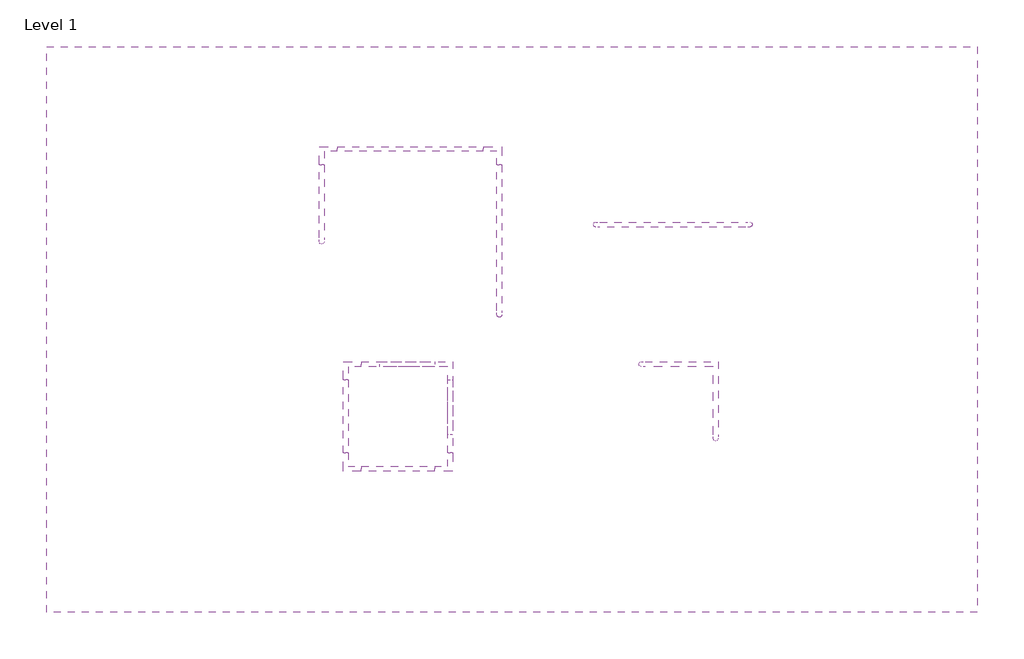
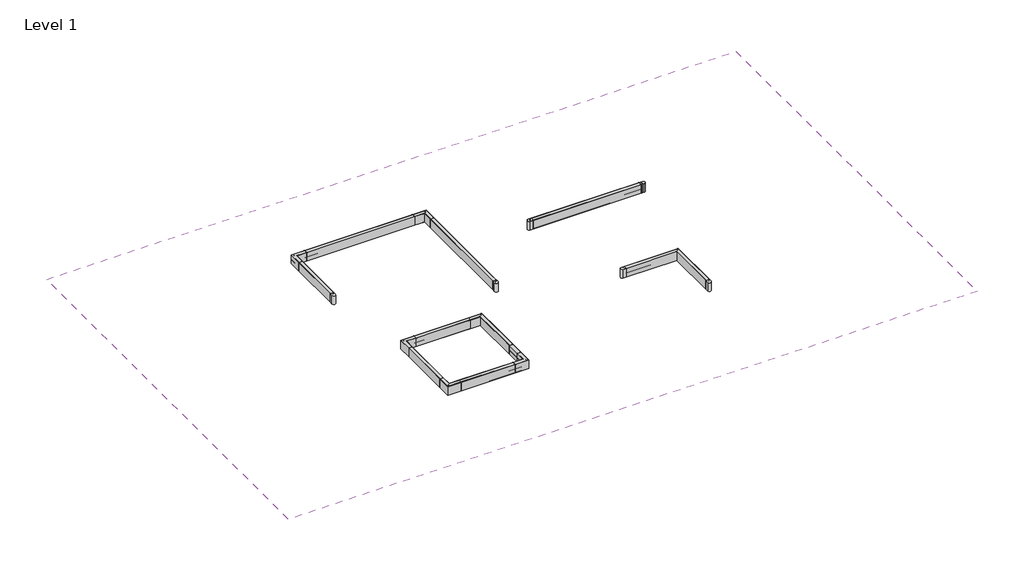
# One storey: 15 light fixtures, 1 covering.
"""IFC4 building model written with IfcOpenShell, lengths in millimetres."""

import ifcopenshell
import ifcopenshell.guid

model = None  # the IFC model being written
_history = None  # IfcOwnerHistory: only IFC2X3 demands one
_inside = {}  # id of a spatial element -> (the spatial element, [elements in it])
_under = {}  # id of a project, library or spatial element -> (it, [spatial elements below it])
_declared = {}  # id of a project -> (the project, [libraries it declares])
_typed = {}  # id of a type object -> (the type object, [elements of that type])
_made_of = {}  # id of a material, layer set ... -> (it, [elements and type objects made of it])


def new_model(schema):
    """Start an empty IFC model of exactly this schema.

    Asked for "IFC4X3", IfcOpenShell would pick the latest addendum, in which some entities
    have other attributes; the version numbers below select the first issue.
    IFC2X3 requires an IfcOwnerHistory on every rooted entity: one is made here for all.
    """
    global model, _history
    if schema == "IFC4X3":
        model = ifcopenshell.file(schema_version=(4, 3, 0, 0))
    else:
        model = ifcopenshell.file(schema=schema)
    _inside.clear()
    _under.clear()
    _declared.clear()
    _typed.clear()
    _made_of.clear()
    _history = None
    if model.schema == "IFC2X3":
        org = make("IfcOrganization", Name="unknown")
        user = make(
            "IfcPersonAndOrganization",
            ThePerson=make("IfcPerson", FamilyName="unknown"),
            TheOrganization=org,
        )
        app = make(
            "IfcApplication",
            ApplicationDeveloper=org,
            Version="unknown",
            ApplicationFullName="unknown",
            ApplicationIdentifier="unknown",
        )
        _history = make(
            "IfcOwnerHistory",
            OwningUser=user,
            OwningApplication=app,
            ChangeAction="ADDED",
            CreationDate=0,
        )
    return model


def make(cls, **values):
    """One entity of the class cls with the attributes given. An attribute that is None is left unset."""
    return model.create_entity(
        cls, **{name: value for name, value in values.items() if value is not None}
    )


def rooted(cls, **values):
    """An entity with a GlobalId (a new one), such as an element, a storey or a relation."""
    return make(cls, GlobalId=ifcopenshell.guid.new(), OwnerHistory=_history, **values)


def si_unit(unit_type, name, prefix=None):
    """IfcSIUnit, for example si_unit("LENGTHUNIT", "METRE", prefix="MILLI")."""
    return make("IfcSIUnit", UnitType=unit_type, Prefix=prefix, Name=name)


def assignment(units):
    """IfcUnitAssignment: the units of a project."""
    return None if units is None else make("IfcUnitAssignment", Units=units)


def point(xyz):
    """IfcCartesianPoint."""
    return None if xyz is None else make("IfcCartesianPoint", Coordinates=xyz)


def direction(xyz):
    """IfcDirection."""
    return None if xyz is None else make("IfcDirection", DirectionRatios=xyz)


def frame(location, z_axis=None, x_axis=None):
    """IfcAxis2Placement3D, a coordinate frame: its origin and axes. An axis left out is left unset."""
    return make(
        "IfcAxis2Placement3D",
        Location=point(location),
        Axis=direction(z_axis),
        RefDirection=direction(x_axis),
    )


def frame_2d(location, x_axis=None):
    """IfcAxis2Placement2D, a coordinate frame in the plane: its origin and x axis."""
    return make(
        "IfcAxis2Placement2D", Location=point(location), RefDirection=direction(x_axis)
    )


def origin():
    """The frame at (0, 0, 0) with its axes left unset."""
    return frame((0.0, 0.0, 0.0))


def origin_with_axes():
    """The frame at (0, 0, 0) with the z axis (0, 0, 1) and the x axis (1, 0, 0) written out."""
    return frame((0.0, 0.0, 0.0), z_axis=(0.0, 0.0, 1.0), x_axis=(1.0, 0.0, 0.0))


def place(relative_to, where):
    """IfcLocalPlacement: puts the frame where relative to a parent placement (None: the world)."""
    return make(
        "IfcLocalPlacement", PlacementRelTo=relative_to, RelativePlacement=where
    )


def context(
    kind, dimensions, precision=None, world=None, true_north=None, identifier=None
):
    """IfcGeometricRepresentationContext, for example the 3D "Model" context."""
    return make(
        "IfcGeometricRepresentationContext",
        ContextIdentifier=identifier,
        ContextType=kind,
        CoordinateSpaceDimension=dimensions,
        Precision=precision,
        WorldCoordinateSystem=world,
        TrueNorth=true_north,
    )


def project(units=None, contexts=None):
    """IfcProject with its units and contexts."""
    return rooted(
        "IfcProject",
        Name="project",
        RepresentationContexts=contexts,
        UnitsInContext=assignment(units),
    )


def spatial(cls, under=None, at=None, **own):
    """A site, building, storey or space (cls), placed at a placement, below another one or the project."""
    s = rooted(cls, ObjectPlacement=at, **own)
    if under is not None:
        _under.setdefault(under.id(), (under, []))[1].append(s)
    return s


def polyline(points):
    """IfcPolyline through the points."""
    return make("IfcPolyline", Points=[point(p) for p in points])


def circle_curve(where, radius):
    """IfcCircle in the frame where."""
    return make("IfcCircle", Position=where, Radius=radius)


def trimmed(basis, trim1, trim2, sense, master):
    """IfcTrimmedCurve: the piece of a basis curve between two trims."""
    return make(
        "IfcTrimmedCurve",
        BasisCurve=basis,
        Trim1=trim1,
        Trim2=trim2,
        SenseAgreement=sense,
        MasterRepresentation=master,
    )


def segment(curve, same_sense, transition):
    """IfcCompositeCurveSegment."""
    return make(
        "IfcCompositeCurveSegment",
        Transition=transition,
        SameSense=same_sense,
        ParentCurve=curve,
    )


def composite_curve(segments, self_intersect=None):
    """IfcCompositeCurve: segments joined end to end."""
    return make("IfcCompositeCurve", Segments=segments, SelfIntersect=self_intersect)


def outline(outer, holes=None, kind="AREA"):
    """IfcArbitraryClosedProfileDef: a profile drawn as a closed curve; with holes, ...WithVoids."""
    if holes is None:
        return make("IfcArbitraryClosedProfileDef", ProfileType=kind, OuterCurve=outer)
    return make(
        "IfcArbitraryProfileDefWithVoids",
        ProfileType=kind,
        OuterCurve=outer,
        InnerCurves=holes,
    )


def extrude(swept, where, along, depth):
    """IfcExtrudedAreaSolid: the profile swept, set in the frame where, extruded along a direction by depth."""
    return make(
        "IfcExtrudedAreaSolid",
        SweptArea=swept,
        Position=where,
        ExtrudedDirection=direction(along),
        Depth=depth,
    )


def shape(context_of_items, identifier, shape_type, items):
    """IfcShapeRepresentation: the items that make up one representation, for example the "Body"."""
    return make(
        "IfcShapeRepresentation",
        ContextOfItems=context_of_items,
        RepresentationIdentifier=identifier,
        RepresentationType=shape_type,
        Items=items,
    )


def source(mapping_origin, context_of_items, identifier, shape_type, items):
    """IfcRepresentationMap: a shape defined once, which mapped items show again and again."""
    return make(
        "IfcRepresentationMap",
        MappingOrigin=mapping_origin,
        MappedRepresentation=shape(context_of_items, identifier, shape_type, items),
    )


def transform(
    local_origin,
    x_axis=None,
    y_axis=None,
    z_axis=None,
    scale=None,
    scale2=None,
    scale3=None,
    uniform=True,
):
    """IfcCartesianTransformationOperator3D, or its non-uniform kind. x_axis, y_axis, z_axis: its Axis1, 2, 3."""
    if uniform:
        return make(
            "IfcCartesianTransformationOperator3D",
            Axis1=direction(x_axis),
            Axis2=direction(y_axis),
            LocalOrigin=point(local_origin),
            Scale=scale,
            Axis3=direction(z_axis),
        )
    return make(
        "IfcCartesianTransformationOperator3DnonUniform",
        Axis1=direction(x_axis),
        Axis2=direction(y_axis),
        LocalOrigin=point(local_origin),
        Scale=scale,
        Axis3=direction(z_axis),
        Scale2=scale2,
        Scale3=scale3,
    )


def mapped(mapping_source, mapping_target):
    """IfcMappedItem: shows the shape of a source again, moved by a transform."""
    return make(
        "IfcMappedItem", MappingSource=mapping_source, MappingTarget=mapping_target
    )


def made_of(thing, what):
    """Note that an element or type object is made of a material, layer set ...; save() writes the relation."""
    if what is not None:
        _made_of.setdefault(what.id(), (what, []))[1].append(thing)
    return thing


def element(
    cls,
    number,
    at=None,
    inside=None,
    cuts=None,
    type_object=None,
    material=None,
    context=None,
    identifier="Body",
    shape_type=None,
    held_by="IfcProductDefinitionShape",
    body=None,
    shapes=None,
    **own,
):
    """One element of the class cls, such as IfcWall. Its Tag is "e" and its number.

    at: its placement. inside: the storey or other place that contains it. cuts: it is an
    opening in that element (IfcRelVoidsElement). A single representation is given by context,
    identifier, shape_type and body (its items); several are given by shapes. held_by: the class
    of the entity that holds the representations. save() writes the other relations.
    """
    e = rooted(cls, Tag="e%d" % number, ObjectPlacement=at, **own)
    if body is not None:
        shapes = [shape(context, identifier, shape_type, body)]
    if shapes is not None:
        e.Representation = make(held_by, Representations=shapes)
    if inside is not None:
        _inside.setdefault(inside.id(), (inside, []))[1].append(e)
    if cuts is not None:
        rooted(
            "IfcRelVoidsElement", RelatingBuildingElement=cuts, RelatedOpeningElement=e
        )
    if type_object is not None:
        _typed.setdefault(type_object.id(), (type_object, []))[1].append(e)
    return made_of(e, material)


def aggregate(whole, parts):
    """IfcRelAggregates: a whole, such as a stair, and the parts it consists of."""
    return rooted("IfcRelAggregates", RelatingObject=whole, RelatedObjects=parts)


def save(model, path):
    """Write the relations noted so far, then the file.

    IfcRelAggregates (storeys below a building ...), IfcRelContainedInSpatialStructure (elements
    in a storey), IfcRelDefinesByType, IfcRelAssociatesMaterial and IfcRelDeclares: one each for
    every whole, place, type object, material and project.
    """
    for whole, parts in _under.values():
        aggregate(whole, parts)
    for where, things in _inside.values():
        rooted(
            "IfcRelContainedInSpatialStructure",
            RelatedElements=things,
            RelatingStructure=where,
        )
    for kind, things in _typed.values():
        rooted("IfcRelDefinesByType", RelatedObjects=things, RelatingType=kind)
    for what, things in _made_of.values():
        rooted("IfcRelAssociatesMaterial", RelatedObjects=things, RelatingMaterial=what)
    for by, libraries in _declared.values():
        rooted("IfcRelDeclares", RelatingContext=by, RelatedDefinitions=libraries)
    model.write(path)


def plane_surface(at):
    """IfcPlane: the flat surface through the origin of the frame at, square to its z axis."""
    return make("IfcPlane", Position=at)


def cylinder_surface(at, radius):
    """IfcCylindricalSurface: all points at the distance radius from the z axis of the frame at."""
    return make("IfcCylindricalSurface", Position=at, Radius=radius)


def revolved_surface(curve, axis_point, axis_direction):
    """IfcSurfaceOfRevolution: the curve turned about the line through axis_point along axis_direction."""
    return make(
        "IfcSurfaceOfRevolution",
        SweptCurve=make("IfcArbitraryOpenProfileDef", ProfileType="CURVE", Curve=curve),
        AxisPosition=make("IfcAxis1Placement", Location=point(axis_point), Axis=direction(axis_direction)),
    )


def advanced_brep(points, edges, surfaces, faces):
    """IfcAdvancedBrep: a solid bounded by faces that lie on surfaces and meet in shared edges.

    An edge is (start, end): straight between two places in points (the first is 0);
    or (start, end, curve); or (start, end, curve, False) where it runs against its curve.
    A face is (place in surfaces, loops), or (place, loops, False) where it looks against
    its surface's normal. A loop lists edges by number (the first is 1), with a minus sign
    where the edge is run from its end to its start. The first loop is the outer one.
    """
    corners = [point(p) for p in points]
    vertices = [make("IfcVertexPoint", VertexGeometry=c) for c in corners]
    made = []
    for start, end, *more in edges:
        made.append(
            make(
                "IfcEdgeCurve",
                EdgeStart=vertices[start],
                EdgeEnd=vertices[end],
                EdgeGeometry=more[0] if more else make("IfcPolyline", Points=[corners[start], corners[end]]),
                SameSense=more[1] if len(more) > 1 else True,
            )
        )
    hull = []
    for where, loops, *sense in faces:
        bounds = []
        for j, loop in enumerate(loops):
            ring = [make("IfcOrientedEdge", EdgeElement=made[abs(k) - 1], Orientation=k > 0) for k in loop]
            bounds.append(
                make(
                    "IfcFaceOuterBound" if j == 0 else "IfcFaceBound",
                    Bound=make("IfcEdgeLoop", EdgeList=ring),
                    Orientation=True,
                )
            )
        hull.append(make("IfcAdvancedFace", Bounds=bounds, FaceSurface=surfaces[where], SameSense=sense[0] if sense else True))
    return make("IfcAdvancedBrep", Outer=make("IfcClosedShell", CfsFaces=hull))


def light_fixture_c3b2ef91(model_context):
    return source(origin(), model_context, "Body", "SolidModel", [
        extrude(outline(composite_curve([segment(polyline([(609.6, -20.6375), (609.6, -18.0975)]), True, "CONTINUOUS"), segment(trimmed(circle_curve(frame_2d((609.6, 0.0)), 18.0975), [point((609.6, -18.0975))], [point((609.6, 18.0975))], True, "CARTESIAN"), True, "CONTINUOUS"), segment(polyline([(609.6, 18.0975), (609.6, 20.6375)]), True, "CONTINUOUS"), segment(trimmed(circle_curve(frame_2d((609.6, 0.0)), 20.6375), [point((609.6, 20.6375))], [point((609.6, -20.6375))], False, "CARTESIAN"), True, "CONTINUOUS")], self_intersect=False)), frame((0.0, 0.0, 1.5875), z_axis=(0.0, 0.0, 1.0), x_axis=(1.0, 0.0, 0.0)), (0.0, 0.0, 1.0), 100.0125),
        extrude(outline(composite_curve([segment(polyline([(609.6, -18.0975), (609.6, 18.0975)]), True, "CONTINUOUS"), segment(trimmed(circle_curve(frame_2d((609.6, 0.0)), 18.0975), [point((609.6, 18.0975))], [point((609.6, -18.0975))], False, "CARTESIAN"), True, "CONTINUOUS")], self_intersect=False)), frame((0.0, 0.0, 96.3095588), z_axis=(0.0, 0.0, 1.0), x_axis=(1.0, 0.0, 0.0)), (0.0, 0.0, 1.0), 1.5875),
        advanced_brep(
        [(609.6, 20.6375, 1.5875), (609.6, -20.6375, 1.5875), (609.6, -20.6375, 0.0), (609.6, 20.6375, 0.0), (642.9375, 20.6375, 0.0), (642.9375, -20.6375, 0.0), (609.6, 20.6375, 101.6), (609.6, -20.6375, 101.6), (642.9375, -20.6375, 101.6), (642.9375, 20.6375, 101.6)],
        [
            (0, 1),
            (1, 0, circle_curve(frame((609.6, 0.0, 1.5875), z_axis=(0.0, 0.0, 1.0), x_axis=(1.0, 0.0, 0.0)), 20.6375)),
            (2, 3),
            (3, 4),
            (4, 5, circle_curve(frame((642.9375, 0.0, 0.0), z_axis=(0.0, 0.0, -1.0), x_axis=(1.0, 0.0, 0.0)), 20.6375)),
            (5, 2),
            (0, 3),
            (2, 1),
            (6, 7, circle_curve(frame((609.6, 0.0, 101.6), z_axis=(0.0, 0.0, -1.0), x_axis=(1.0, 0.0, 0.0)), 20.6375)),
            (7, 8),
            (8, 9, circle_curve(frame((642.9375, 0.0, 101.6), z_axis=(0.0, 0.0, 1.0), x_axis=(1.0, 0.0, 0.0)), 20.6375)),
            (9, 6),
            (6, 0),
            (1, 7),
            (5, 8),
            (4, 9),
        ],
        [
            plane_surface(frame((630.2375, 0.0, 1.5875), z_axis=(0.0, 0.0, 1.0), x_axis=(0.0, 1.0, 0.0))),
            plane_surface(frame((630.2375, 0.0, 0.0), z_axis=(0.0, 0.0, -1.0), x_axis=(0.0, -1.0, 0.0))),
            plane_surface(frame((609.6, 20.6375, 1.5875), z_axis=(-1.0, 0.0, 0.0), x_axis=(0.0, 0.0, -1.0))),
            plane_surface(frame((630.2375, 0.0, 101.6), z_axis=(0.0, 0.0, 1.0), x_axis=(0.0, -1.0, 0.0))),
            revolved_surface(polyline([(630.2375000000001, 0.0, 1.5875), (630.2375000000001, 0.0, 101.6)]), (609.6, 0.0, 0.0), (0.0, 0.0, -1.0)),
            plane_surface(frame((609.6, -20.6375, 101.6), z_axis=(0.0, -1.0, 0.0), x_axis=(0.0, 0.0, -1.0))),
            cylinder_surface(frame((642.9375, 0.0, 0.0), z_axis=(0.0, 0.0, 1.0), x_axis=(1.0, 0.0, 0.0)), 20.6375),
            plane_surface(frame((642.9375, 20.6375, 101.6), z_axis=(0.0, 1.0, 0.0), x_axis=(0.0, 0.0, -1.0))),
        ],
        [
            (0, [[1, 2]]),
            (1, [[3, 4, 5, 6]]),
            (2, [[-1, 7, -3, 8]]),
            (3, [[9, 10, 11, 12]]),
            (4, [[-9, 13, -2, 14]]),
            (5, [[-10, -14, -8, -6, 15]]),
            (6, [[-11, -15, -5, 16]]),
            (7, [[-12, -16, -4, -7, -13]]),
        ],
    ),
        extrude(outline(composite_curve([segment(polyline([(-609.6, 20.6375), (-609.6, 18.0975)]), True, "CONTINUOUS"), segment(trimmed(circle_curve(frame_2d((-609.6, 0.0)), 18.0975), [point((-609.6, 18.0975))], [point((-609.6, -18.0975))], True, "CARTESIAN"), True, "CONTINUOUS"), segment(polyline([(-609.6, -18.0975), (-609.6, -20.6375)]), True, "CONTINUOUS"), segment(trimmed(circle_curve(frame_2d((-609.6, 0.0)), 20.6375), [point((-609.6, -20.6375))], [point((-609.6, 20.6375))], False, "CARTESIAN"), True, "CONTINUOUS")], self_intersect=False)), frame((0.0, 0.0, 1.5875), z_axis=(0.0, 0.0, 1.0), x_axis=(1.0, 0.0, 0.0)), (0.0, 0.0, 1.0), 100.0125),
        extrude(outline(composite_curve([segment(polyline([(-609.6, 18.0975), (-609.6, -18.0975)]), True, "CONTINUOUS"), segment(trimmed(circle_curve(frame_2d((-609.6, 0.0)), 18.0975), [point((-609.6, -18.0975))], [point((-609.6, 18.0975))], False, "CARTESIAN"), True, "CONTINUOUS")], self_intersect=False)), frame((0.0, 0.0, 96.3095588), z_axis=(0.0, 0.0, 1.0), x_axis=(1.0, 0.0, 0.0)), (0.0, 0.0, 1.0), 1.5875),
        advanced_brep(
        [(-609.6, -20.6375, 1.5875), (-609.6, 20.6375, 1.5875), (-609.6, 20.6375, 0.0), (-609.6, -20.6375, 0.0), (-642.9375, -20.6375, 0.0), (-642.9375, 20.6375, 0.0), (-609.6, -20.6375, 101.6), (-609.6, 20.6375, 101.6), (-642.9375, 20.6375, 101.6), (-642.9375, -20.6375, 101.6)],
        [
            (0, 1),
            (1, 0, circle_curve(frame((-609.6, 0.0, 1.5875), z_axis=(0.0, 0.0, 1.0), x_axis=(-1.0, 0.0, 0.0)), 20.6375)),
            (2, 3),
            (3, 4),
            (4, 5, circle_curve(frame((-642.9375, 0.0, 0.0), z_axis=(0.0, 0.0, -1.0), x_axis=(-1.0, 0.0, 0.0)), 20.6375)),
            (5, 2),
            (0, 3),
            (2, 1),
            (6, 7, circle_curve(frame((-609.6, 0.0, 101.6), z_axis=(0.0, 0.0, -1.0), x_axis=(-1.0, 0.0, 0.0)), 20.6375)),
            (7, 8),
            (8, 9, circle_curve(frame((-642.9375, 0.0, 101.6), z_axis=(0.0, 0.0, 1.0), x_axis=(-1.0, 0.0, 0.0)), 20.6375)),
            (9, 6),
            (6, 0),
            (1, 7),
            (5, 8),
            (4, 9),
        ],
        [
            plane_surface(frame((-630.2375, 0.0, 1.5875), z_axis=(0.0, 0.0, 1.0), x_axis=(0.0, -1.0, 0.0))),
            plane_surface(frame((-630.2375, 0.0, 0.0), z_axis=(0.0, 0.0, -1.0), x_axis=(0.0, 1.0, 0.0))),
            plane_surface(frame((-609.6, -20.6375, 1.5875), z_axis=(1.0, 0.0, 0.0), x_axis=(0.0, 0.0, -1.0))),
            plane_surface(frame((-630.2375, 0.0, 101.6), z_axis=(0.0, 0.0, 1.0), x_axis=(0.0, 1.0, 0.0))),
            revolved_surface(polyline([(-630.2375000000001, 0.0, 1.5875), (-630.2375000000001, 0.0, 101.6)]), (-609.6, 0.0, 0.0), (0.0, 0.0, -1.0)),
            plane_surface(frame((-609.6, 20.6375, 101.6), z_axis=(0.0, 1.0, 0.0), x_axis=(0.0, 0.0, -1.0))),
            cylinder_surface(frame((-642.9375, 0.0, 0.0), z_axis=(0.0, 0.0, 1.0), x_axis=(-1.0, 0.0, 0.0)), 20.6375),
            plane_surface(frame((-642.9375, -20.6375, 101.6), z_axis=(0.0, -1.0, 0.0), x_axis=(0.0, 0.0, -1.0))),
        ],
        [
            (0, [[1, 2]]),
            (1, [[3, 4, 5, 6]]),
            (2, [[-1, 7, -3, 8]]),
            (3, [[9, 10, 11, 12]]),
            (4, [[-9, 13, -2, 14]]),
            (5, [[-10, -14, -8, -6, 15]]),
            (6, [[-11, -15, -5, 16]]),
            (7, [[-12, -16, -4, -7, -13]]),
        ],
    ),
        extrude(outline(polyline([(609.6, 18.0975), (609.6, -18.0975), (-609.6, -18.0975), (-609.6, 18.0975), (609.6, 18.0975)])), frame((0.0, 0.0, 96.3095588), z_axis=(0.0, 0.0, 1.0), x_axis=(1.0, 0.0, 0.0)), (0.0, 0.0, 1.0), 1.5875),
        extrude(outline(polyline([(609.6, 18.0975), (609.6, -18.0975), (-609.6, -18.0975), (-609.6, 18.0975), (609.6, 18.0975)])), frame((0.0, 0.0, 53.687913), z_axis=(0.0, 0.0, 1.0), x_axis=(1.0, 0.0, 0.0)), (0.0, 0.0, 1.0), 1.5875),
        extrude(outline(polyline([(609.6, 18.0975), (609.6, -18.0975), (-609.6, -18.0975), (-609.6, 18.0975), (609.6, 18.0975)])), origin_with_axes(), (0.0, 0.0, 1.0), 1.5875),
        extrude(outline(polyline([(609.6, 20.6375), (609.6, 18.0975), (-609.6, 18.0975), (-609.6, 20.6375), (609.6, 20.6375)])), origin_with_axes(), (0.0, 0.0, 1.0), 101.6),
        extrude(outline(polyline([(609.6, -18.0975), (609.6, -20.6375), (-609.6, -20.6375), (-609.6, -18.0975), (609.6, -18.0975)])), origin_with_axes(), (0.0, 0.0, 1.0), 101.6),
    ])


def light_fixture_2741b592(model_context):
    return source(origin(), model_context, "Body", "SolidModel", [
        extrude(outline(composite_curve([segment(polyline([(304.8, -20.6375), (304.8, -18.0975)]), True, "CONTINUOUS"), segment(trimmed(circle_curve(frame_2d((304.8, 0.0)), 18.0975), [point((304.8, -18.0975))], [point((304.8, 18.0975))], True, "CARTESIAN"), True, "CONTINUOUS"), segment(polyline([(304.8, 18.0975), (304.8, 20.6375)]), True, "CONTINUOUS"), segment(trimmed(circle_curve(frame_2d((304.8, 0.0)), 20.6375), [point((304.8, 20.6375))], [point((304.8, -20.6375))], False, "CARTESIAN"), True, "CONTINUOUS")], self_intersect=False)), frame((0.0, 0.0, 1.5875), z_axis=(0.0, 0.0, 1.0), x_axis=(1.0, 0.0, 0.0)), (0.0, 0.0, 1.0), 100.0125),
        extrude(outline(composite_curve([segment(polyline([(304.8, -18.0975), (304.8, 18.0975)]), True, "CONTINUOUS"), segment(trimmed(circle_curve(frame_2d((304.8, 0.0)), 18.0975), [point((304.8, 18.0975))], [point((304.8, -18.0975))], False, "CARTESIAN"), True, "CONTINUOUS")], self_intersect=False)), frame((0.0, 0.0, 96.3095588), z_axis=(0.0, 0.0, 1.0), x_axis=(1.0, 0.0, 0.0)), (0.0, 0.0, 1.0), 1.5875),
        advanced_brep(
        [(304.8, 20.6375, 1.5875), (304.8, -20.6375, 1.5875), (304.8, -20.6375, 0.0), (304.8, 20.6375, 0.0), (338.1375, 20.6375, 0.0), (338.1375, -20.6375, 0.0), (304.8, 20.6375, 101.6), (304.8, -20.6375, 101.6), (338.1375, -20.6375, 101.6), (338.1375, 20.6375, 101.6)],
        [
            (0, 1),
            (1, 0, circle_curve(frame((304.8, 0.0, 1.5875), z_axis=(0.0, 0.0, 1.0), x_axis=(1.0, 0.0, 0.0)), 20.6375)),
            (2, 3),
            (3, 4),
            (4, 5, circle_curve(frame((338.1375, 0.0, 0.0), z_axis=(0.0, 0.0, -1.0), x_axis=(1.0, 0.0, 0.0)), 20.6375)),
            (5, 2),
            (0, 3),
            (2, 1),
            (6, 7, circle_curve(frame((304.8, 0.0, 101.6), z_axis=(0.0, 0.0, -1.0), x_axis=(1.0, 0.0, 0.0)), 20.6375)),
            (7, 8),
            (8, 9, circle_curve(frame((338.1375, 0.0, 101.6), z_axis=(0.0, 0.0, 1.0), x_axis=(1.0, 0.0, 0.0)), 20.6375)),
            (9, 6),
            (6, 0),
            (1, 7),
            (5, 8),
            (4, 9),
        ],
        [
            plane_surface(frame((325.4375, 0.0, 1.5875), z_axis=(0.0, 0.0, 1.0), x_axis=(0.0, 1.0, 0.0))),
            plane_surface(frame((325.4375, 0.0, 0.0), z_axis=(0.0, 0.0, -1.0), x_axis=(0.0, -1.0, 0.0))),
            plane_surface(frame((304.8, 20.6375, 1.5875), z_axis=(-1.0, 0.0, 0.0), x_axis=(0.0, 0.0, -1.0))),
            plane_surface(frame((325.4375, 0.0, 101.6), z_axis=(0.0, 0.0, 1.0), x_axis=(0.0, -1.0, 0.0))),
            revolved_surface(polyline([(325.4375, 0.0, 1.5875), (325.4375, 0.0, 101.6)]), (304.8, 0.0, 0.0), (0.0, 0.0, -1.0)),
            plane_surface(frame((304.8, -20.6375, 101.6), z_axis=(0.0, -1.0, 0.0), x_axis=(0.0, 0.0, -1.0))),
            cylinder_surface(frame((338.1375, 0.0, 0.0), z_axis=(0.0, 0.0, 1.0), x_axis=(1.0, 0.0, 0.0)), 20.6375),
            plane_surface(frame((338.1375, 20.6375, 101.6), z_axis=(0.0, 1.0, 0.0), x_axis=(0.0, 0.0, -1.0))),
        ],
        [
            (0, [[1, 2]]),
            (1, [[3, 4, 5, 6]]),
            (2, [[-1, 7, -3, 8]]),
            (3, [[9, 10, 11, 12]]),
            (4, [[-9, 13, -2, 14]]),
            (5, [[-10, -14, -8, -6, 15]]),
            (6, [[-11, -15, -5, 16]]),
            (7, [[-12, -16, -4, -7, -13]]),
        ],
    ),
        extrude(outline(polyline([(304.8, 18.0975), (304.8, -18.0975), (-304.8, -18.0975), (-304.8, 18.0975), (304.8, 18.0975)])), frame((0.0, 0.0, 96.3095588), z_axis=(0.0, 0.0, 1.0), x_axis=(1.0, 0.0, 0.0)), (0.0, 0.0, 1.0), 1.5875),
        extrude(outline(polyline([(304.8, 18.0975), (304.8, -18.0975), (-304.8, -18.0975), (-304.8, 18.0975), (304.8, 18.0975)])), frame((0.0, 0.0, 53.687913), z_axis=(0.0, 0.0, 1.0), x_axis=(1.0, 0.0, 0.0)), (0.0, 0.0, 1.0), 1.5875),
        extrude(outline(polyline([(304.8, 18.0975), (304.8, -18.0975), (-304.8, -18.0975), (-304.8, 18.0975), (304.8, 18.0975)])), origin_with_axes(), (0.0, 0.0, 1.0), 1.5875),
        extrude(outline(polyline([(304.8, 20.6375), (304.8, 18.0975), (-304.8, 18.0975), (-304.8, 20.6375), (304.8, 20.6375)])), origin_with_axes(), (0.0, 0.0, 1.0), 101.6),
        extrude(outline(polyline([(304.8, -18.0975), (304.8, -20.6375), (-304.8, -20.6375), (-304.8, -18.0975), (304.8, -18.0975)])), origin_with_axes(), (0.0, 0.0, 1.0), 101.6),
    ])


def light_fixture_59b39700(model_context):
    return source(origin(), model_context, "Body", "SweptSolid", [
        extrude(outline(polyline([(609.6, 18.0975), (609.6, -18.0975), (-609.6, -18.0975), (-609.6, 18.0975), (609.6, 18.0975)])), frame((0.0, 0.0, 96.3095588), z_axis=(0.0, 0.0, 1.0), x_axis=(1.0, 0.0, 0.0)), (0.0, 0.0, 1.0), 1.5875),
        extrude(outline(polyline([(609.6, 18.0975), (609.6, -18.0975), (-609.6, -18.0975), (-609.6, 18.0975), (609.6, 18.0975)])), frame((0.0, 0.0, 53.687913), z_axis=(0.0, 0.0, 1.0), x_axis=(1.0, 0.0, 0.0)), (0.0, 0.0, 1.0), 1.5875),
        extrude(outline(polyline([(609.6, 18.0975), (609.6, -18.0975), (-609.6, -18.0975), (-609.6, 18.0975), (609.6, 18.0975)])), origin_with_axes(), (0.0, 0.0, 1.0), 1.5875),
        extrude(outline(polyline([(609.6, 20.6375), (609.6, 18.0975), (-609.6, 18.0975), (-609.6, 20.6375), (609.6, 20.6375)])), origin_with_axes(), (0.0, 0.0, 1.0), 101.6),
        extrude(outline(polyline([(609.6, -18.0975), (609.6, -20.6375), (-609.6, -20.6375), (-609.6, -18.0975), (609.6, -18.0975)])), origin_with_axes(), (0.0, 0.0, 1.0), 101.6),
    ])


def light_fixture_2e1d50b0(model_context):
    return source(origin(), model_context, "Body", "SolidModel", [
        extrude(outline(composite_curve([segment(polyline([(609.6, -20.6375), (609.6, -18.0975)]), True, "CONTINUOUS"), segment(trimmed(circle_curve(frame_2d((609.6, 0.0)), 18.0975), [point((609.6, -18.0975))], [point((609.6, 18.0975))], True, "CARTESIAN"), True, "CONTINUOUS"), segment(polyline([(609.6, 18.0975), (609.6, 20.6375)]), True, "CONTINUOUS"), segment(trimmed(circle_curve(frame_2d((609.6, 0.0)), 20.6375), [point((609.6, 20.6375))], [point((609.6, -20.6375))], False, "CARTESIAN"), True, "CONTINUOUS")], self_intersect=False)), frame((0.0, 0.0, 1.5875), z_axis=(0.0, 0.0, 1.0), x_axis=(1.0, 0.0, 0.0)), (0.0, 0.0, 1.0), 100.0125),
        extrude(outline(composite_curve([segment(polyline([(609.6, -18.0975), (609.6, 18.0975)]), True, "CONTINUOUS"), segment(trimmed(circle_curve(frame_2d((609.6, 0.0)), 18.0975), [point((609.6, 18.0975))], [point((609.6, -18.0975))], False, "CARTESIAN"), True, "CONTINUOUS")], self_intersect=False)), frame((0.0, 0.0, 96.3095588), z_axis=(0.0, 0.0, 1.0), x_axis=(1.0, 0.0, 0.0)), (0.0, 0.0, 1.0), 1.5875),
        advanced_brep(
        [(609.6, 20.6375, 1.5875), (609.6, -20.6375, 1.5875), (609.6, -20.6375, 0.0), (609.6, 20.6375, 0.0), (642.9375, 20.6375, 0.0), (642.9375, -20.6375, 0.0), (609.6, 20.6375, 101.6), (609.6, -20.6375, 101.6), (642.9375, -20.6375, 101.6), (642.9375, 20.6375, 101.6)],
        [
            (0, 1),
            (1, 0, circle_curve(frame((609.6, 0.0, 1.5875), z_axis=(0.0, 0.0, 1.0), x_axis=(1.0, 0.0, 0.0)), 20.6375)),
            (2, 3),
            (3, 4),
            (4, 5, circle_curve(frame((642.9375, 0.0, 0.0), z_axis=(0.0, 0.0, -1.0), x_axis=(1.0, 0.0, 0.0)), 20.6375)),
            (5, 2),
            (0, 3),
            (2, 1),
            (6, 7, circle_curve(frame((609.6, 0.0, 101.6), z_axis=(0.0, 0.0, -1.0), x_axis=(1.0, 0.0, 0.0)), 20.6375)),
            (7, 8),
            (8, 9, circle_curve(frame((642.9375, 0.0, 101.6), z_axis=(0.0, 0.0, 1.0), x_axis=(1.0, 0.0, 0.0)), 20.6375)),
            (9, 6),
            (6, 0),
            (1, 7),
            (5, 8),
            (4, 9),
        ],
        [
            plane_surface(frame((630.2375, 0.0, 1.5875), z_axis=(0.0, 0.0, 1.0), x_axis=(0.0, 1.0, 0.0))),
            plane_surface(frame((630.2375, 0.0, 0.0), z_axis=(0.0, 0.0, -1.0), x_axis=(0.0, -1.0, 0.0))),
            plane_surface(frame((609.6, 20.6375, 1.5875), z_axis=(-1.0, 0.0, 0.0), x_axis=(0.0, 0.0, -1.0))),
            plane_surface(frame((630.2375, 0.0, 101.6), z_axis=(0.0, 0.0, 1.0), x_axis=(0.0, -1.0, 0.0))),
            revolved_surface(polyline([(630.2375000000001, 0.0, 1.5875), (630.2375000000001, 0.0, 101.6)]), (609.6, 0.0, 0.0), (0.0, 0.0, -1.0)),
            plane_surface(frame((609.6, -20.6375, 101.6), z_axis=(0.0, -1.0, 0.0), x_axis=(0.0, 0.0, -1.0))),
            cylinder_surface(frame((642.9375, 0.0, 0.0), z_axis=(0.0, 0.0, 1.0), x_axis=(1.0, 0.0, 0.0)), 20.6375),
            plane_surface(frame((642.9375, 20.6375, 101.6), z_axis=(0.0, 1.0, 0.0), x_axis=(0.0, 0.0, -1.0))),
        ],
        [
            (0, [[1, 2]]),
            (1, [[3, 4, 5, 6]]),
            (2, [[-1, 7, -3, 8]]),
            (3, [[9, 10, 11, 12]]),
            (4, [[-9, 13, -2, 14]]),
            (5, [[-10, -14, -8, -6, 15]]),
            (6, [[-11, -15, -5, 16]]),
            (7, [[-12, -16, -4, -7, -13]]),
        ],
    ),
        extrude(outline(polyline([(609.6, 18.0975), (609.6, -18.0975), (-609.6, -18.0975), (-609.6, 18.0975), (609.6, 18.0975)])), frame((0.0, 0.0, 96.3095588), z_axis=(0.0, 0.0, 1.0), x_axis=(1.0, 0.0, 0.0)), (0.0, 0.0, 1.0), 1.5875),
        extrude(outline(polyline([(609.6, 18.0975), (609.6, -18.0975), (-609.6, -18.0975), (-609.6, 18.0975), (609.6, 18.0975)])), frame((0.0, 0.0, 53.687913), z_axis=(0.0, 0.0, 1.0), x_axis=(1.0, 0.0, 0.0)), (0.0, 0.0, 1.0), 1.5875),
        extrude(outline(polyline([(609.6, 18.0975), (609.6, -18.0975), (-609.6, -18.0975), (-609.6, 18.0975), (609.6, 18.0975)])), origin_with_axes(), (0.0, 0.0, 1.0), 1.5875),
        extrude(outline(polyline([(609.6, 20.6375), (609.6, 18.0975), (-609.6, 18.0975), (-609.6, 20.6375), (609.6, 20.6375)])), origin_with_axes(), (0.0, 0.0, 1.0), 101.6),
        extrude(outline(polyline([(609.6, -18.0975), (609.6, -20.6375), (-609.6, -20.6375), (-609.6, -18.0975), (609.6, -18.0975)])), origin_with_axes(), (0.0, 0.0, 1.0), 101.6),
    ])


def light_fixture_fd8fac24(model_context):
    return source(origin(), model_context, "Body", "SweptSolid", [
        extrude(outline(polyline([(304.8, 18.0975), (304.8, -18.0975), (-304.8, -18.0975), (-304.8, 18.0975), (304.8, 18.0975)])), frame((0.0, 0.0, 96.3095588), z_axis=(0.0, 0.0, 1.0), x_axis=(1.0, 0.0, 0.0)), (0.0, 0.0, 1.0), 1.5875),
        extrude(outline(polyline([(304.8, 18.0975), (304.8, -18.0975), (-304.8, -18.0975), (-304.8, 18.0975), (304.8, 18.0975)])), frame((0.0, 0.0, 53.687913), z_axis=(0.0, 0.0, 1.0), x_axis=(1.0, 0.0, 0.0)), (0.0, 0.0, 1.0), 1.5875),
        extrude(outline(polyline([(304.8, 18.0975), (304.8, -18.0975), (-304.8, -18.0975), (-304.8, 18.0975), (304.8, 18.0975)])), origin_with_axes(), (0.0, 0.0, 1.0), 1.5875),
        extrude(outline(polyline([(304.8, 20.6375), (304.8, 18.0975), (-304.8, 18.0975), (-304.8, 20.6375), (304.8, 20.6375)])), origin_with_axes(), (0.0, 0.0, 1.0), 101.6),
        extrude(outline(polyline([(304.8, -18.0975), (304.8, -20.6375), (-304.8, -20.6375), (-304.8, -18.0975), (304.8, -18.0975)])), origin_with_axes(), (0.0, 0.0, 1.0), 101.6),
    ])


def corner_1d5955e4(model_context):
    return source(origin(), model_context, "Body", "SolidModel", [
        advanced_brep(
        [(0.0, 0.0, 0.0), (-1.2878851, 0.0, 0.0), (1.2878851, 0.0, 0.0), (1.2878851, 0.0, 1.5875), (-1.2878851, 0.0, 1.5875), (0.0, 0.0, 1.5875)],
        [
            (0, 1),
            (1, 2, circle_curve(frame((0.0, 0.0, 0.0), z_axis=(0.0, 0.0, -1.0), x_axis=(-1.0, 0.0, 0.0)), 1.2878851)),
            (2, 0),
            (2, 1, circle_curve(frame((0.0, 0.0, 0.0), z_axis=(0.0, 0.0, -1.0), x_axis=(-1.0, 0.0, 0.0)), 1.2878851)),
            (3, 4, circle_curve(frame((0.0, 0.0, 1.5875), z_axis=(0.0, 0.0, 1.0), x_axis=(-1.0, 0.0, 0.0)), 1.2878851)),
            (4, 5),
            (5, 3),
            (4, 3, circle_curve(frame((0.0, 0.0, 1.5875), z_axis=(0.0, 0.0, 1.0), x_axis=(-1.0, 0.0, 0.0)), 1.2878851)),
            (1, 4),
            (3, 2),
        ],
        [
            plane_surface(frame((0.0, 0.0, 0.0), z_axis=(0.0, 0.0, -1.0), x_axis=(-1.0, 0.0, 0.0))),
            plane_surface(frame((0.0, 0.0, 1.5875), z_axis=(0.0, 0.0, 1.0), x_axis=(-1.0, 0.0, 0.0))),
            cylinder_surface(frame((0.0, 0.0, 10.1320953), z_axis=(0.0, 0.0, -1.0), x_axis=(-1.0, 0.0, 0.0)), 1.2878851),
        ],
        [
            (0, [[1, 2, 3]]),
            (0, [[-3, 4, -1]]),
            (1, [[5, 6, 7]]),
            (1, [[8, -7, -6]]),
            (2, [[-2, 9, -5, 10]]),
            (2, [[-4, -10, -8, -9]]),
        ],
    ),
        extrude(outline(polyline([(131.7625, 18.0975), (131.7625, -18.0975), (18.0975, -18.0975), (18.0975, -131.7625), (-18.0975, -131.7625), (-18.0975, 18.0975), (131.7625, 18.0975)])), origin_with_axes(), (0.0, 0.0, 1.0), 1.5875),
        extrude(outline(polyline([(131.7625, 18.0975), (131.7625, -18.0975), (18.0975, -18.0975), (18.0975, -131.7625), (-18.0975, -131.7625), (-18.0975, 18.0975), (131.7625, 18.0975)])), frame((0.0, 0.0, 53.687913), z_axis=(0.0, 0.0, 1.0), x_axis=(1.0, 0.0, 0.0)), (0.0, 0.0, 1.0), 1.5875),
        extrude(outline(polyline([(131.7625, 18.0975), (131.7625, -18.0975), (18.0975, -18.0975), (18.0975, -131.7625), (-18.0975, -131.7625), (-18.0975, 18.0975), (131.7625, 18.0975)])), frame((0.0, 0.0, 96.3095588), z_axis=(0.0, 0.0, 1.0), x_axis=(1.0, 0.0, 0.0)), (0.0, 0.0, 1.0), 1.5875),
        extrude(outline(polyline([(131.7625, 20.6375), (131.7625, 18.0975), (-18.0975, 18.0975), (-18.0975, -131.7625), (-20.6375, -131.7625), (-20.6375, 20.6375), (131.7625, 20.6375)])), origin_with_axes(), (0.0, 0.0, 1.0), 101.6),
        extrude(outline(polyline([(131.7625, -18.0975), (131.7625, -20.6375), (20.6375, -20.6375), (20.6375, -131.7625), (18.0975, -131.7625), (18.0975, -18.0975), (131.7625, -18.0975)])), origin_with_axes(), (0.0, 0.0, 1.0), 101.6),
    ])


def corner_0d147cad(model_context):
    return source(origin(), model_context, "Body", "SolidModel", [
        extrude(outline(composite_curve([segment(polyline([(588.9625, -20.6375), (588.9625, -18.0975)]), True, "CONTINUOUS"), segment(trimmed(circle_curve(frame_2d((588.9625, 0.0)), 18.0975), [point((588.9625, -18.0975))], [point((588.9625, 18.0975))], True, "CARTESIAN"), True, "CONTINUOUS"), segment(polyline([(588.9625, 18.0975), (588.9625, 20.6375)]), True, "CONTINUOUS"), segment(trimmed(circle_curve(frame_2d((588.9625, 0.0)), 20.6375), [point((588.9625, 20.6375))], [point((588.9625, -20.6375))], False, "CARTESIAN"), True, "CONTINUOUS")], self_intersect=False)), frame((0.0, 0.0, 1.5875), z_axis=(0.0, 0.0, 1.0), x_axis=(1.0, 0.0, 0.0)), (0.0, 0.0, 1.0), 100.0125),
        extrude(outline(composite_curve([segment(polyline([(588.9625, -18.0975), (588.9625, 18.0975)]), True, "CONTINUOUS"), segment(trimmed(circle_curve(frame_2d((588.9625, 0.0)), 18.0975), [point((588.9625, 18.0975))], [point((588.9625, -18.0975))], False, "CARTESIAN"), True, "CONTINUOUS")], self_intersect=False)), frame((0.0, 0.0, 96.3095588), z_axis=(0.0, 0.0, 1.0), x_axis=(1.0, 0.0, 0.0)), (0.0, 0.0, 1.0), 1.5875),
        advanced_brep(
        [(588.9625, 20.6375, 1.5875), (588.9625, -20.6375, 1.5875), (588.9625, -20.6375, 0.0), (588.9625, 20.6375, 0.0), (622.3, 20.6375, 0.0), (622.3, -20.6375, 0.0), (588.9625, 20.6375, 101.6), (588.9625, -20.6375, 101.6), (622.3, -20.6375, 101.6), (622.3, 20.6375, 101.6)],
        [
            (0, 1),
            (1, 0, circle_curve(frame((588.9625, 0.0, 1.5875), z_axis=(0.0, 0.0, 1.0), x_axis=(1.0, 0.0, 0.0)), 20.6375)),
            (2, 3),
            (3, 4),
            (4, 5, circle_curve(frame((622.3, 0.0, 0.0), z_axis=(0.0, 0.0, -1.0), x_axis=(1.0, 0.0, 0.0)), 20.6375)),
            (5, 2),
            (0, 3),
            (2, 1),
            (6, 7, circle_curve(frame((588.9625, 0.0, 101.6), z_axis=(0.0, 0.0, -1.0), x_axis=(1.0, 0.0, 0.0)), 20.6375)),
            (7, 8),
            (8, 9, circle_curve(frame((622.3, 0.0, 101.6), z_axis=(0.0, 0.0, 1.0), x_axis=(1.0, 0.0, 0.0)), 20.6375)),
            (9, 6),
            (6, 0),
            (1, 7),
            (5, 8),
            (4, 9),
        ],
        [
            plane_surface(frame((609.6, 0.0, 1.5875), z_axis=(0.0, 0.0, 1.0), x_axis=(0.0, 1.0, 0.0))),
            plane_surface(frame((609.6, 0.0, 0.0), z_axis=(0.0, 0.0, -1.0), x_axis=(0.0, -1.0, 0.0))),
            plane_surface(frame((588.9625, 20.6375, 1.5875), z_axis=(-1.0, 0.0, 0.0), x_axis=(0.0, 0.0, -1.0))),
            plane_surface(frame((609.6, 0.0, 101.6), z_axis=(0.0, 0.0, 1.0), x_axis=(0.0, -1.0, 0.0))),
            revolved_surface(polyline([(609.6, 0.0, 1.5875), (609.6, 0.0, 101.6)]), (588.9625, 0.0, 0.0), (0.0, 0.0, -1.0)),
            plane_surface(frame((588.9625, -20.6375, 101.6), z_axis=(0.0, -1.0, 0.0), x_axis=(0.0, 0.0, -1.0))),
            cylinder_surface(frame((622.3, 0.0, 0.0), z_axis=(0.0, 0.0, 1.0), x_axis=(1.0, 0.0, 0.0)), 20.6375),
            plane_surface(frame((622.3, 20.6375, 101.6), z_axis=(0.0, 1.0, 0.0), x_axis=(0.0, 0.0, -1.0))),
        ],
        [
            (0, [[1, 2]]),
            (1, [[3, 4, 5, 6]]),
            (2, [[-1, 7, -3, 8]]),
            (3, [[9, 10, 11, 12]]),
            (4, [[-9, 13, -2, 14]]),
            (5, [[-10, -14, -8, -6, 15]]),
            (6, [[-11, -15, -5, 16]]),
            (7, [[-12, -16, -4, -7, -13]]),
        ],
    ),
        extrude(outline(composite_curve([segment(polyline([(-20.6375, -588.9625), (-18.0975, -588.9625)]), True, "CONTINUOUS"), segment(trimmed(circle_curve(frame_2d((0.0, -588.9625)), 18.0975), [point((-18.0975, -588.9625))], [point((18.0975, -588.9625))], True, "CARTESIAN"), True, "CONTINUOUS"), segment(polyline([(18.0975, -588.9625), (20.6375, -588.9625)]), True, "CONTINUOUS"), segment(trimmed(circle_curve(frame_2d((0.0, -588.9625)), 20.6375), [point((20.6375, -588.9625))], [point((-20.6375, -588.9625))], False, "CARTESIAN"), True, "CONTINUOUS")], self_intersect=False)), frame((0.0, 0.0, 1.5875), z_axis=(0.0, 0.0, 1.0), x_axis=(1.0, 0.0, 0.0)), (0.0, 0.0, 1.0), 100.0125),
        extrude(outline(composite_curve([segment(polyline([(-18.0975, -588.9625), (18.0975, -588.9625)]), True, "CONTINUOUS"), segment(trimmed(circle_curve(frame_2d((0.0, -588.9625)), 18.0975), [point((18.0975, -588.9625))], [point((-18.0975, -588.9625))], False, "CARTESIAN"), True, "CONTINUOUS")], self_intersect=False)), frame((0.0, 0.0, 96.3095588), z_axis=(0.0, 0.0, 1.0), x_axis=(1.0, 0.0, 0.0)), (0.0, 0.0, 1.0), 1.5875),
        advanced_brep(
        [(20.6375, -588.9625, 1.5875), (-20.6375, -588.9625, 1.5875), (-20.6375, -588.9625, 0.0), (20.6375, -588.9625, 0.0), (20.6375, -622.3, 0.0), (-20.6375, -622.3, 0.0), (20.6375, -588.9625, 101.6), (-20.6375, -588.9625, 101.6), (-20.6375, -622.3, 101.6), (20.6375, -622.3, 101.6)],
        [
            (0, 1),
            (1, 0, circle_curve(frame((0.0, -588.9625, 1.5875), z_axis=(0.0, 0.0, 1.0), x_axis=(0.0, -1.0, 0.0)), 20.6375)),
            (2, 3),
            (3, 4),
            (4, 5, circle_curve(frame((0.0, -622.3, 0.0), z_axis=(0.0, 0.0, -1.0), x_axis=(0.0, -1.0, 0.0)), 20.6375)),
            (5, 2),
            (0, 3),
            (2, 1),
            (6, 7, circle_curve(frame((0.0, -588.9625, 101.6), z_axis=(0.0, 0.0, -1.0), x_axis=(0.0, -1.0, 0.0)), 20.6375)),
            (7, 8),
            (8, 9, circle_curve(frame((0.0, -622.3, 101.6), z_axis=(0.0, 0.0, 1.0), x_axis=(0.0, -1.0, 0.0)), 20.6375)),
            (9, 6),
            (6, 0),
            (1, 7),
            (5, 8),
            (4, 9),
        ],
        [
            plane_surface(frame((0.0, -609.6, 1.5875), z_axis=(0.0, 0.0, 1.0), x_axis=(1.0, 0.0, 0.0))),
            plane_surface(frame((0.0, -609.6, 0.0), z_axis=(0.0, 0.0, -1.0), x_axis=(-1.0, 0.0, 0.0))),
            plane_surface(frame((20.6375, -588.9625, 1.5875), z_axis=(0.0, 1.0, 0.0), x_axis=(0.0, 0.0, -1.0))),
            plane_surface(frame((0.0, -609.6, 101.6), z_axis=(0.0, 0.0, 1.0), x_axis=(-1.0, 0.0, 0.0))),
            revolved_surface(polyline([(0.0, -609.6, 1.5875), (0.0, -609.6, 101.6)]), (0.0, -588.9625, 0.0), (0.0, 0.0, -1.0)),
            plane_surface(frame((-20.6375, -588.9625, 101.6), z_axis=(-1.0, 0.0, 0.0), x_axis=(0.0, 0.0, -1.0))),
            cylinder_surface(frame((0.0, -622.3, 0.0), z_axis=(0.0, 0.0, 1.0), x_axis=(0.0, -1.0, 0.0)), 20.6375),
            plane_surface(frame((20.6375, -622.3, 101.6), z_axis=(1.0, 0.0, 0.0), x_axis=(0.0, 0.0, -1.0))),
        ],
        [
            (0, [[1, 2]]),
            (1, [[3, 4, 5, 6]]),
            (2, [[-1, 7, -3, 8]]),
            (3, [[9, 10, 11, 12]]),
            (4, [[-9, 13, -2, 14]]),
            (5, [[-10, -14, -8, -6, 15]]),
            (6, [[-11, -15, -5, 16]]),
            (7, [[-12, -16, -4, -7, -13]]),
        ],
    ),
        advanced_brep(
        [(0.0, 0.0, 0.0), (-1.2878851, 0.0, 0.0), (1.2878851, 0.0, 0.0), (1.2878851, 0.0, 1.5875), (-1.2878851, 0.0, 1.5875), (0.0, 0.0, 1.5875)],
        [
            (0, 1),
            (1, 2, circle_curve(frame((0.0, 0.0, 0.0), z_axis=(0.0, 0.0, -1.0), x_axis=(-1.0, 0.0, 0.0)), 1.2878851)),
            (2, 0),
            (2, 1, circle_curve(frame((0.0, 0.0, 0.0), z_axis=(0.0, 0.0, -1.0), x_axis=(-1.0, 0.0, 0.0)), 1.2878851)),
            (3, 4, circle_curve(frame((0.0, 0.0, 1.5875), z_axis=(0.0, 0.0, 1.0), x_axis=(-1.0, 0.0, 0.0)), 1.2878851)),
            (4, 5),
            (5, 3),
            (4, 3, circle_curve(frame((0.0, 0.0, 1.5875), z_axis=(0.0, 0.0, 1.0), x_axis=(-1.0, 0.0, 0.0)), 1.2878851)),
            (1, 4),
            (3, 2),
        ],
        [
            plane_surface(frame((0.0, 0.0, 0.0), z_axis=(0.0, 0.0, -1.0), x_axis=(-1.0, 0.0, 0.0))),
            plane_surface(frame((0.0, 0.0, 1.5875), z_axis=(0.0, 0.0, 1.0), x_axis=(-1.0, 0.0, 0.0))),
            cylinder_surface(frame((0.0, 0.0, 10.1320953), z_axis=(0.0, 0.0, -1.0), x_axis=(-1.0, 0.0, 0.0)), 1.2878851),
        ],
        [
            (0, [[1, 2, 3]]),
            (0, [[-3, 4, -1]]),
            (1, [[5, 6, 7]]),
            (1, [[8, -7, -6]]),
            (2, [[-2, 9, -5, 10]]),
            (2, [[-4, -10, -8, -9]]),
        ],
    ),
        extrude(outline(polyline([(588.9625, 18.0975), (588.9625, -18.0975), (18.0975, -18.0975), (18.0975, -588.9625), (-18.0975, -588.9625), (-18.0975, 18.0975), (588.9625, 18.0975)])), origin_with_axes(), (0.0, 0.0, 1.0), 1.5875),
        extrude(outline(polyline([(588.9625, 18.0975), (588.9625, -18.0975), (18.0975, -18.0975), (18.0975, -588.9625), (-18.0975, -588.9625), (-18.0975, 18.0975), (588.9625, 18.0975)])), frame((0.0, 0.0, 53.687913), z_axis=(0.0, 0.0, 1.0), x_axis=(1.0, 0.0, 0.0)), (0.0, 0.0, 1.0), 1.5875),
        extrude(outline(polyline([(588.9625, 18.0975), (588.9625, -18.0975), (18.0975, -18.0975), (18.0975, -588.9625), (-18.0975, -588.9625), (-18.0975, 18.0975), (588.9625, 18.0975)])), frame((0.0, 0.0, 96.3095588), z_axis=(0.0, 0.0, 1.0), x_axis=(1.0, 0.0, 0.0)), (0.0, 0.0, 1.0), 1.5875),
        extrude(outline(polyline([(588.9625, 20.6375), (588.9625, 18.0975), (-18.0975, 18.0975), (-18.0975, -588.9625), (-20.6375, -588.9625), (-20.6375, 20.6375), (588.9625, 20.6375)])), origin_with_axes(), (0.0, 0.0, 1.0), 101.6),
        extrude(outline(polyline([(588.9625, -18.0975), (588.9625, -20.6375), (20.6375, -20.6375), (20.6375, -588.9625), (18.0975, -588.9625), (18.0975, -18.0975), (588.9625, -18.0975)])), origin_with_axes(), (0.0, 0.0, 1.0), 101.6),
    ])


def corner_76d2cd6a(model_context):
    return source(origin(), model_context, "Body", "SolidModel", [
        advanced_brep(
        [(0.0, 0.0, 0.0), (-1.2878851, 0.0, 0.0), (1.2878851, 0.0, 0.0), (1.2878851, 0.0, 1.5875), (-1.2878851, 0.0, 1.5875), (0.0, 0.0, 1.5875)],
        [
            (0, 1),
            (1, 2, circle_curve(frame((0.0, 0.0, 0.0), z_axis=(0.0, 0.0, -1.0), x_axis=(-1.0, 0.0, 0.0)), 1.2878851)),
            (2, 0),
            (2, 1, circle_curve(frame((0.0, 0.0, 0.0), z_axis=(0.0, 0.0, -1.0), x_axis=(-1.0, 0.0, 0.0)), 1.2878851)),
            (3, 4, circle_curve(frame((0.0, 0.0, 1.5875), z_axis=(0.0, 0.0, 1.0), x_axis=(-1.0, 0.0, 0.0)), 1.2878851)),
            (4, 5),
            (5, 3),
            (4, 3, circle_curve(frame((0.0, 0.0, 1.5875), z_axis=(0.0, 0.0, 1.0), x_axis=(-1.0, 0.0, 0.0)), 1.2878851)),
            (1, 4),
            (3, 2),
        ],
        [
            plane_surface(frame((0.0, 0.0, 0.0), z_axis=(0.0, 0.0, -1.0), x_axis=(-1.0, 0.0, 0.0))),
            plane_surface(frame((0.0, 0.0, 1.5875), z_axis=(0.0, 0.0, 1.0), x_axis=(-1.0, 0.0, 0.0))),
            cylinder_surface(frame((0.0, 0.0, 10.1320953), z_axis=(0.0, 0.0, -1.0), x_axis=(-1.0, 0.0, 0.0)), 1.2878851),
        ],
        [
            (0, [[1, 2, 3]]),
            (0, [[-3, 4, -1]]),
            (1, [[5, 6, 7]]),
            (1, [[8, -7, -6]]),
            (2, [[-2, 9, -5, 10]]),
            (2, [[-4, -10, -8, -9]]),
        ],
    ),
        extrude(outline(polyline([(588.9625, 18.0975), (588.9625, -18.0975), (18.0975, -18.0975), (18.0975, -588.9625), (-18.0975, -588.9625), (-18.0975, 18.0975), (588.9625, 18.0975)])), origin_with_axes(), (0.0, 0.0, 1.0), 1.5875),
        extrude(outline(polyline([(588.9625, 18.0975), (588.9625, -18.0975), (18.0975, -18.0975), (18.0975, -588.9625), (-18.0975, -588.9625), (-18.0975, 18.0975), (588.9625, 18.0975)])), frame((0.0, 0.0, 53.687913), z_axis=(0.0, 0.0, 1.0), x_axis=(1.0, 0.0, 0.0)), (0.0, 0.0, 1.0), 1.5875),
        extrude(outline(polyline([(588.9625, 18.0975), (588.9625, -18.0975), (18.0975, -18.0975), (18.0975, -588.9625), (-18.0975, -588.9625), (-18.0975, 18.0975), (588.9625, 18.0975)])), frame((0.0, 0.0, 96.3095588), z_axis=(0.0, 0.0, 1.0), x_axis=(1.0, 0.0, 0.0)), (0.0, 0.0, 1.0), 1.5875),
        extrude(outline(polyline([(588.9625, 20.6375), (588.9625, 18.0975), (-18.0975, 18.0975), (-18.0975, -588.9625), (-20.6375, -588.9625), (-20.6375, 20.6375), (588.9625, 20.6375)])), origin_with_axes(), (0.0, 0.0, 1.0), 101.6),
        extrude(outline(polyline([(588.9625, -18.0975), (588.9625, -20.6375), (20.6375, -20.6375), (20.6375, -588.9625), (18.0975, -588.9625), (18.0975, -18.0975), (588.9625, -18.0975)])), origin_with_axes(), (0.0, 0.0, 1.0), 101.6),
    ])


model = new_model("IFC4")

# Units and contexts
model_context = context("Model", 3, world=origin())
ifc_project = project(units=[si_unit("LENGTHUNIT", "METRE", prefix="MILLI")], contexts=[model_context])

# Site, building, storey
site = spatial("IfcSite", under=ifc_project)
building = spatial("IfcBuilding", under=site)
storey = spatial("IfcBuildingStorey", under=building, Name="Level 1", Elevation=0.0)

# Covering
placement = place(None, origin())
element("IfcCovering", 1, ObjectType="2' x 4' ACT System", at=placement, inside=storey, context=model_context, shape_type="SweptSolid", body=[
    extrude(outline(polyline([(-4065.5199774, 6283.1270347), (3706.8800226, 6283.1270347), (3706.8800226, 1558.7270347), (-4065.5199774, 1558.7270347), (-4065.5199774, 6283.1270347)])), frame((0.0, 0.0, 2438.4), z_axis=(0.0, 0.0, 1.0), x_axis=(1.0, 0.0, 0.0)), (0.0, 0.0, 1.0), 57.15),
])

# Light fixtures
light_fixture_shape = light_fixture_c3b2ef91(model_context)
element("IfcLightFixture", 2, ObjectType="Lighting-Ceiling-Betacalco-Block-Straight : BLKC-DT1-PW01-TR01-SL04-EP01-LP020-CR80-CTA40", at=placement, inside=storey, context=model_context, shape_type="MappedRepresentation", body=[
    mapped(light_fixture_shape, transform((1162.6706981, 4796.8354386, 2438.4), x_axis=(1.0, 0.0, 0.0), y_axis=(0.0, -1.0, 0.0), z_axis=(0.0, 0.0, -1.0))),
])
light_fixture_2_shape = light_fixture_2741b592(model_context)
element("IfcLightFixture", 3, ObjectType="Lighting-Ceiling-Betacalco-Block-Straight : BLKC-DT1-PW01-TR01-SL04-EP01-LP020-CR80-CTA40", at=placement, inside=storey, context=model_context, shape_type="MappedRepresentation", body=[
    mapped(light_fixture_2_shape, transform((-1768.2398334, 4991.3569774, 2438.4), x_axis=(0.0, -1.0, 0.0), y_axis=(-1.0, 0.0, 0.0), z_axis=(0.0, 0.0, -1.0))),
])
light_fixture_3_shape = light_fixture_59b39700(model_context)
element("IfcLightFixture", 4, ObjectType="Lighting-Ceiling-Betacalco-Block-Straight : BLKC-DT1-PW01-TR01-SL04-EP01-LP020-CR80-CTA40", at=placement, inside=storey, context=model_context, shape_type="MappedRepresentation", body=[
    mapped(light_fixture_3_shape, transform((-1026.8773334, 5427.9194774, 2438.4), x_axis=(1.0, 0.0, 0.0), y_axis=(0.0, -1.0, 0.0), z_axis=(0.0, 0.0, -1.0))),
])
light_fixture_4_shape = light_fixture_2e1d50b0(model_context)
element("IfcLightFixture", 5, ObjectType="Lighting-Ceiling-Betacalco-Block-Straight : BLKC-DT1-PW01-TR01-SL04-EP01-LP020-CR80-CTA40", at=placement, inside=storey, context=model_context, shape_type="MappedRepresentation", body=[
    mapped(light_fixture_4_shape, transform((-285.5148334, 4686.5569774, 2438.4), x_axis=(0.0, -1.0, 0.0), y_axis=(-1.0, 0.0, 0.0), z_axis=(0.0, 0.0, -1.0))),
])
light_fixture_5_shape = light_fixture_fd8fac24(model_context)
element("IfcLightFixture", 6, ObjectType="Lighting-Ceiling-Betacalco-Block-Straight : BLKC-DT1-PW01-TR01-SL04-EP01-LP020-CR80-CTA40", at=placement, inside=storey, context=model_context, shape_type="MappedRepresentation", body=[
    mapped(light_fixture_5_shape, transform((-1131.1191336, 3632.0120741, 2438.4), x_axis=(1.0, 0.0, 0.0), y_axis=(0.0, -1.0, 0.0), z_axis=(0.0, 0.0, -1.0))),
])
element("IfcLightFixture", 7, ObjectType="Lighting-Ceiling-Betacalco-Block-Straight : BLKC-DT1-PW01-TR01-SL04-EP01-LP020-CR80-CTA40", at=placement, inside=storey, context=model_context, shape_type="MappedRepresentation", body=[
    mapped(light_fixture_5_shape, transform((-1567.6816336, 3195.4495741, 2438.4), x_axis=(0.0, -1.0, 0.0), y_axis=(-1.0, 0.0, 0.0), z_axis=(0.0, 0.0, -1.0))),
])
element("IfcLightFixture", 8, ObjectType="Lighting-Ceiling-Betacalco-Block-Straight : BLKC-DT1-PW01-TR01-SL04-EP01-LP020-CR80-CTA40", at=placement, inside=storey, context=model_context, shape_type="MappedRepresentation", body=[
    mapped(light_fixture_5_shape, transform((-694.5566336, 3195.4495741, 2438.4), x_axis=(0.0, -1.0, 0.0), y_axis=(-1.0, 0.0, 0.0), z_axis=(0.0, 0.0, -1.0))),
])
element("IfcLightFixture", 9, ObjectType="Lighting-Ceiling-Betacalco-Block-Straight : BLKC-DT1-PW01-TR01-SL04-EP01-LP020-CR80-CTA40", at=placement, inside=storey, context=model_context, shape_type="MappedRepresentation", body=[
    mapped(light_fixture_5_shape, transform((-1131.1191336, 2758.8870741, 2438.4), x_axis=(1.0, 0.0, 0.0), y_axis=(0.0, -1.0, 0.0), z_axis=(0.0, 0.0, -1.0))),
])
corner_shape = corner_1d5955e4(model_context)
element("IfcLightFixture", 10, ObjectType="Lighting-Ceiling-Betacalco-Block-Corner : Corner", at=placement, inside=storey, context=model_context, shape_type="MappedRepresentation", body=[
    mapped(corner_shape, transform((-1768.2398334, 5427.9194774, 2438.4), x_axis=(0.0, -1.0, 0.0), y_axis=(-1.0, 0.0, 0.0), z_axis=(0.0, 0.0, -1.0))),
])
element("IfcLightFixture", 11, ObjectType="Lighting-Ceiling-Betacalco-Block-Corner : Corner", at=placement, inside=storey, context=model_context, shape_type="MappedRepresentation", body=[
    mapped(corner_shape, transform((-285.5148334, 5427.9194774, 2438.4), x_axis=(-1.0, 0.0, 0.0), y_axis=(0.0, 1.0, 0.0), z_axis=(0.0, 0.0, -1.0))),
])
element("IfcLightFixture", 12, ObjectType="Lighting-Ceiling-Betacalco-Block-Corner : Corner", at=placement, inside=storey, context=model_context, shape_type="MappedRepresentation", body=[
    mapped(corner_shape, transform((-1567.6816336, 3632.0120741, 2438.4), x_axis=(0.0, -1.0, 0.0), y_axis=(-1.0, 0.0, 0.0), z_axis=(0.0, 0.0, -1.0))),
])
element("IfcLightFixture", 13, ObjectType="Lighting-Ceiling-Betacalco-Block-Corner : Corner", at=placement, inside=storey, context=model_context, shape_type="MappedRepresentation", body=[
    mapped(corner_shape, transform((-1567.6816336, 2758.8870741, 2438.4), x_axis=(1.0, 0.0, 0.0), y_axis=(0.0, -1.0, 0.0), z_axis=(0.0, 0.0, -1.0))),
])
element("IfcLightFixture", 14, ObjectType="Lighting-Ceiling-Betacalco-Block-Corner : Corner", at=placement, inside=storey, context=model_context, shape_type="MappedRepresentation", body=[
    mapped(corner_shape, transform((-694.5566336, 2758.8870741, 2438.4), x_axis=(0.0, 1.0, 0.0), y_axis=(1.0, 0.0, 0.0), z_axis=(0.0, 0.0, -1.0))),
])
corner_2_shape = corner_0d147cad(model_context)
element("IfcLightFixture", 15, ObjectType="Lighting-Ceiling-Betacalco-Block-Corner : Corner", at=placement, inside=storey, context=model_context, shape_type="MappedRepresentation", body=[
    mapped(corner_2_shape, transform((1520.9916463, 3632.0120741, 2438.4), x_axis=(-1.0, 0.0, 0.0), y_axis=(0.0, 1.0, 0.0), z_axis=(0.0, 0.0, -1.0))),
])
corner_3_shape = corner_76d2cd6a(model_context)
element("IfcLightFixture", 16, ObjectType="Lighting-Ceiling-Betacalco-Block-Corner : Corner", at=placement, inside=storey, context=model_context, shape_type="MappedRepresentation", body=[
    mapped(corner_3_shape, transform((-694.5566336, 3632.0120741, 2438.4), x_axis=(-1.0, 0.0, 0.0), y_axis=(0.0, 1.0, 0.0), z_axis=(0.0, 0.0, -1.0))),
])

save(model, "model.ifc")
